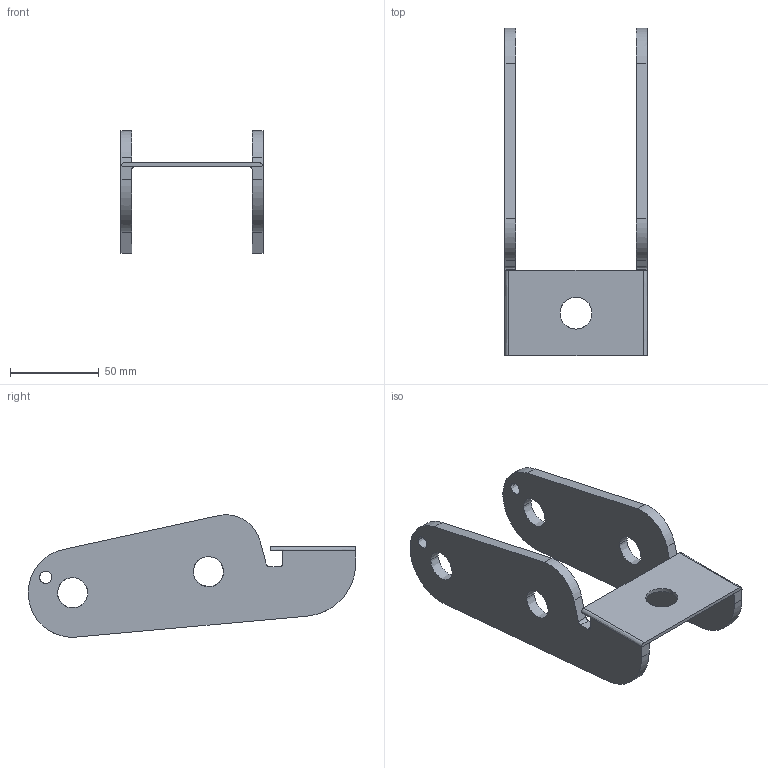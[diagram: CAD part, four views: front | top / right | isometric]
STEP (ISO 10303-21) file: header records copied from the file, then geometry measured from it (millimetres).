
FILE_DESCRIPTION (( 'STEP AP214' ), '1' );
FILE_NAME ('KTU-200WK-GS-30.STEP', '2018-08-30T08:04:56', ( '' ), ( '' ), 'SwSTEP 2.0', 'SolidWorks 2010', '' );
FILE_SCHEMA (( 'AUTOMOTIVE_DESIGN' ));
Length unit declared in the file: millimetre
Products named in the file (1): KTU-200WK-GS-30
Bounding box: 80 x 184.47 x 68.94 mm (x, y, z)
Volume: 105901.4 mm3; surface area: 46355.5 mm2
Topology: 1 solids, 1 shells, 48 faces, 136 edges, 90 vertices
Faces by surface type: bspline 28, plane 20
Entity records: 3965 total; most frequent: CARTESIAN_POINT 2864, ORIENTED_EDGE 272, EDGE_CURVE 136, DIRECTION 115, VERTEX_POINT 90, VECTOR 73, LINE 73, B_SPLINE_CURVE_WITH_KNOTS 63
